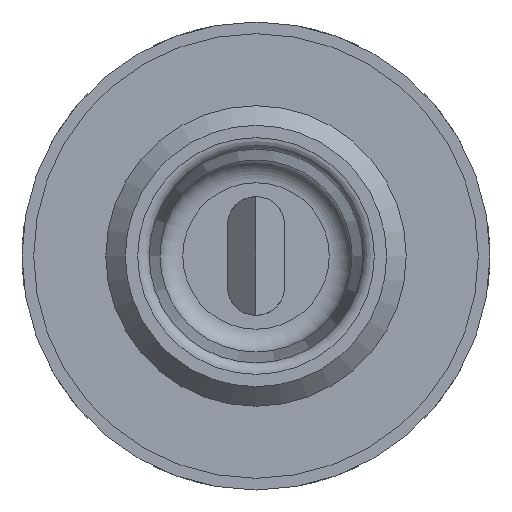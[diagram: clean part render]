
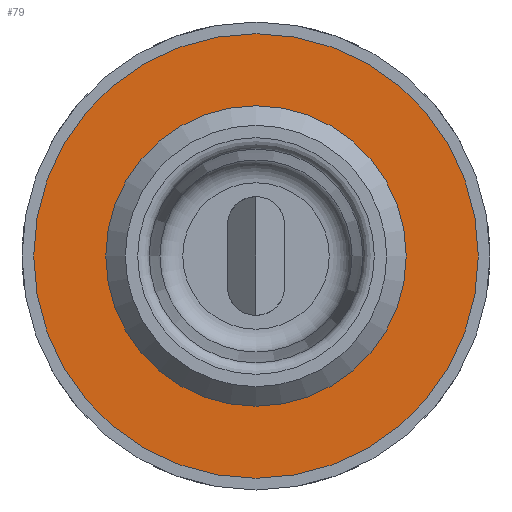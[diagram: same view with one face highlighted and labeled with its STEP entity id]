
A CAD part, left-side view. The second image highlights one B-rep face of the part: STEP entity #79.
In plain terms, the highlighted planar face has unit normal (-1, 0, 0).
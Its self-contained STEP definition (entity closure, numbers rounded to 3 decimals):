
#79 = ADVANCED_FACE( '', ( #148, #149 ), #150, .T. );
#148 = FACE_BOUND( '', #287, .T. );
#149 = FACE_OUTER_BOUND( '', #288, .T. );
#150 = PLANE( '', #289 );
#287 = EDGE_LOOP( '', ( #440 ) );
#288 = EDGE_LOOP( '', ( #441 ) );
#289 = AXIS2_PLACEMENT_3D( '', #442, #443, #444 );
#440 = ORIENTED_EDGE( '', *, *, #909, .T. );
#441 = ORIENTED_EDGE( '', *, *, #910, .F. );
#442 = CARTESIAN_POINT( '', ( 8.1, 9.738, 0. ) );
#443 = DIRECTION( '', ( -1., 0., 0. ) );
#444 = DIRECTION( '', ( 0., -1., 0. ) );
#909 = EDGE_CURVE( '', #1066, #1066, #1067, .T. );
#910 = EDGE_CURVE( '', #1068, #1068, #1069, .T. );
#1066 = VERTEX_POINT( '', #1326 );
#1067 = CIRCLE( '', #1327, 6.579 );
#1068 = VERTEX_POINT( '', #1328 );
#1069 = CIRCLE( '', #1329, 9.738 );
#1326 = CARTESIAN_POINT( '', ( 8.1, 6.579, 0. ) );
#1327 = AXIS2_PLACEMENT_3D( '', #1700, #1701, #1702 );
#1328 = CARTESIAN_POINT( '', ( 8.1, 9.738, 0. ) );
#1329 = AXIS2_PLACEMENT_3D( '', #1703, #1704, #1705 );
#1700 = CARTESIAN_POINT( '', ( 8.1, 0., 0. ) );
#1701 = DIRECTION( '', ( 1., 0., 0. ) );
#1702 = DIRECTION( '', ( 0., 1., 0. ) );
#1703 = CARTESIAN_POINT( '', ( 8.1, 0., 0. ) );
#1704 = DIRECTION( '', ( 1., 0., 0. ) );
#1705 = DIRECTION( '', ( 0., 1., 0. ) );
